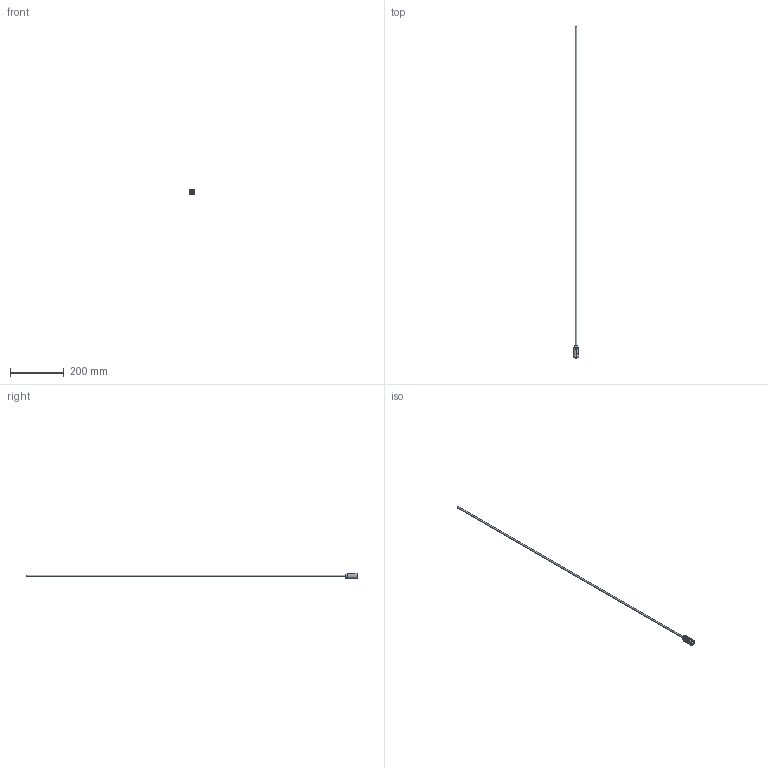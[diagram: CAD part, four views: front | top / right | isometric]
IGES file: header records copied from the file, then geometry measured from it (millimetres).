
Start section: SolidWorks IGES file using analytic representation for surfaces
Global section: file name: F:\GABRYSIA\MODELE 3D\_CAMELEON\CABLE_WWW\CABLE_G9_8632_8631_8627_8626_8625_8640_8638_8637_8636_8634_8622_8621_8618_8616_8615_8601_8598_8623_8595_8594_8585_8583_8624_8580_8578_WWW\CABLE_G9.IGS; native system: SolidWorks 2017; preprocessor: SolidWorks 2017; author: Togambi; date: 200518.170804; units: millimetre
Bounding box: 21.75 x 1239.5 x 21.75 mm (x, y, z)
Surface area: 36433.6 mm2 (no closed solid volume)
Topology: 0 solids, 0 shells, 155 faces, 3179 edges, 3179 vertices
Faces by surface type: revolution 90, bspline 65
